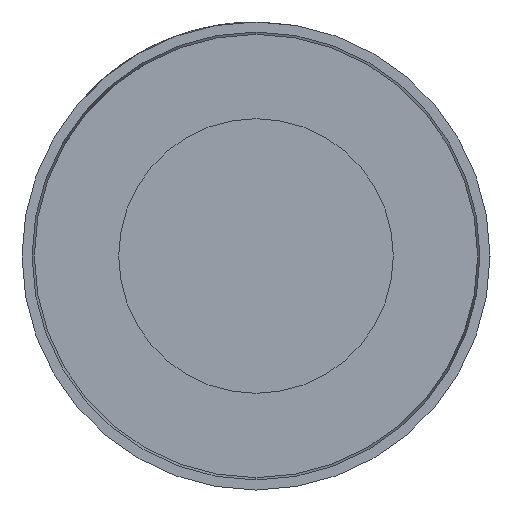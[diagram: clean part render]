
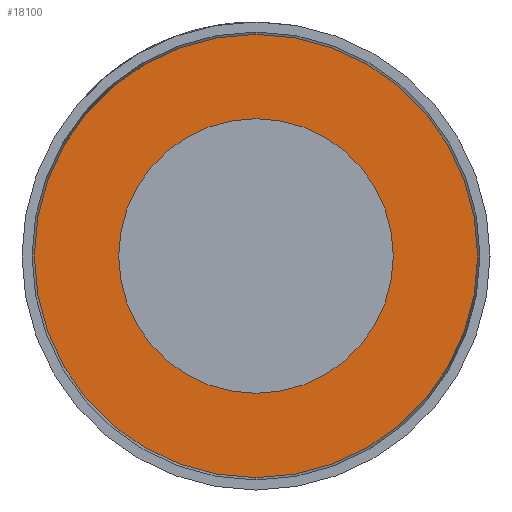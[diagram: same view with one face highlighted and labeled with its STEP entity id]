
A CAD part, left-side view. The second image highlights one B-rep face of the part: STEP entity #18100.
In plain terms, the highlighted planar face has unit normal (-1, 0, 0).
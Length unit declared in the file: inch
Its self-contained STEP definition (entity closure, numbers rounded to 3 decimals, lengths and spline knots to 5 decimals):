
#205 = VERTEX_POINT ( 'NONE', #6529 ) ;
#582 = DIRECTION ( 'NONE',  ( 1., 0., 0. ) ) ;
#1136 = DIRECTION ( 'NONE',  ( -1., 0., 0. ) ) ;
#1569 = PLANE ( 'NONE',  #18985 ) ;
#1630 = CIRCLE ( 'NONE', #13054, 0.11 ) ;
#2685 = CARTESIAN_POINT ( 'NONE',  ( 0., 0., 0. ) ) ;
#3576 = DIRECTION ( 'NONE',  ( 0., 0., -1. ) ) ;
#5943 = EDGE_CURVE ( 'NONE', #12659, #19573, #1630, .T. ) ;
#6083 = CARTESIAN_POINT ( 'NONE',  ( 0., 0., 0. ) ) ;
#6206 = EDGE_CURVE ( 'NONE', #19784, #205, #6874, .T. ) ;
#6529 = CARTESIAN_POINT ( 'NONE',  ( 0., 0., -0.1775 ) ) ;
#6874 = CIRCLE ( 'NONE', #17329, 0.1775 ) ;
#7376 = CARTESIAN_POINT ( 'NONE',  ( 0., 0., 0. ) ) ;
#7587 = EDGE_CURVE ( 'NONE', #205, #19784, #10873, .T. ) ;
#7926 = AXIS2_PLACEMENT_3D ( 'NONE', #13975, #17273, #15313 ) ;
#8341 = EDGE_LOOP ( 'NONE', ( #11525, #16280 ) ) ;
#10120 = DIRECTION ( 'NONE',  ( 0., 0., 1. ) ) ;
#10736 = ORIENTED_EDGE ( 'NONE', *, *, #5943, .F. ) ;
#10873 = CIRCLE ( 'NONE', #7926, 0.1775 ) ;
#11525 = ORIENTED_EDGE ( 'NONE', *, *, #7587, .F. ) ;
#12171 = AXIS2_PLACEMENT_3D ( 'NONE', #7376, #1136, #16703 ) ;
#12216 = DIRECTION ( 'NONE',  ( 1., 0., 0. ) ) ;
#12512 = DIRECTION ( 'NONE',  ( 0., 0., -1. ) ) ;
#12659 = VERTEX_POINT ( 'NONE', #17708 ) ;
#13054 = AXIS2_PLACEMENT_3D ( 'NONE', #2685, #19501, #10120 ) ;
#13975 = CARTESIAN_POINT ( 'NONE',  ( 0., 0., 0. ) ) ;
#14757 = CARTESIAN_POINT ( 'NONE',  ( 0., 0., 0.1775 ) ) ;
#15313 = DIRECTION ( 'NONE',  ( 0., 0., -1. ) ) ;
#16144 = CARTESIAN_POINT ( 'NONE',  ( 0., 0., 0. ) ) ;
#16280 = ORIENTED_EDGE ( 'NONE', *, *, #6206, .F. ) ;
#16438 = EDGE_CURVE ( 'NONE', #19573, #12659, #19968, .T. ) ;
#16703 = DIRECTION ( 'NONE',  ( 0., 0., 1. ) ) ;
#16926 = FACE_BOUND ( 'NONE', #19894, .T. ) ;
#17036 = FACE_OUTER_BOUND ( 'NONE', #8341, .T. ) ;
#17273 = DIRECTION ( 'NONE',  ( 1., 0., 0. ) ) ;
#17329 = AXIS2_PLACEMENT_3D ( 'NONE', #16144, #582, #3576 ) ;
#17708 = CARTESIAN_POINT ( 'NONE',  ( 0., 0., 0.11 ) ) ;
#17931 = ORIENTED_EDGE ( 'NONE', *, *, #16438, .F. ) ;
#18100 = ADVANCED_FACE ( 'NONE', ( #16926, #17036 ), #1569, .F. ) ;
#18985 = AXIS2_PLACEMENT_3D ( 'NONE', #6083, #12216, #12512 ) ;
#19501 = DIRECTION ( 'NONE',  ( -1., 0., 0. ) ) ;
#19573 = VERTEX_POINT ( 'NONE', #19951 ) ;
#19784 = VERTEX_POINT ( 'NONE', #14757 ) ;
#19894 = EDGE_LOOP ( 'NONE', ( #10736, #17931 ) ) ;
#19951 = CARTESIAN_POINT ( 'NONE',  ( 0., 0., -0.11 ) ) ;
#19968 = CIRCLE ( 'NONE', #12171, 0.11 ) ;
